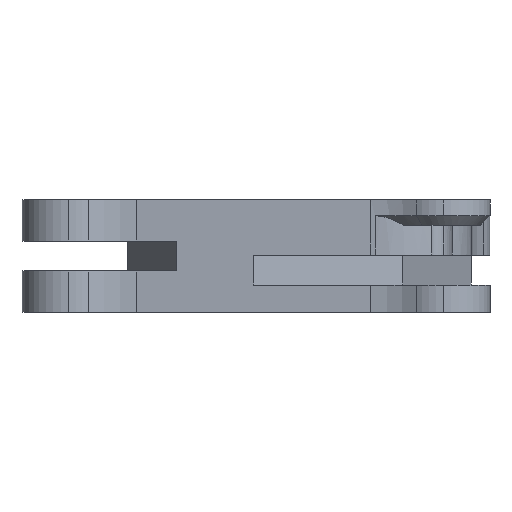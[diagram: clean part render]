
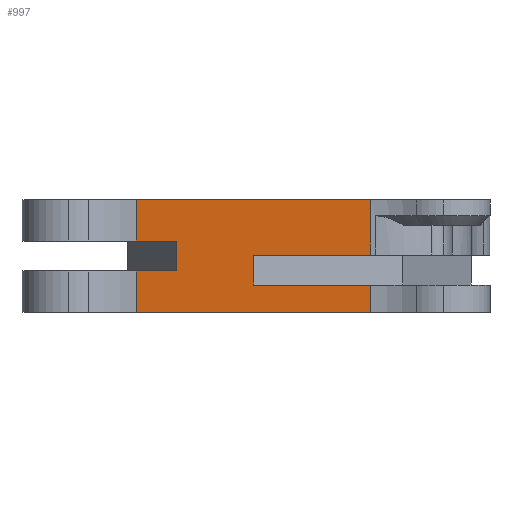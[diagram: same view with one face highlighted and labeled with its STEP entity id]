
A CAD part, left-side view. The second image highlights one B-rep face of the part: STEP entity #997.
In plain terms, the highlighted planar face has unit normal (-0.996, 0.088, 0).
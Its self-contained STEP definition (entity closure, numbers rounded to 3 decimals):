
#47 = CARTESIAN_POINT ( 'NONE',  ( -43.724, 20.232, 2.9 ) ) ;
#71 = LINE ( 'NONE', #522, #1834 ) ;
#75 = EDGE_CURVE ( 'NONE', #1943, #1281, #801, .T. ) ;
#81 = CARTESIAN_POINT ( 'NONE',  ( -43.724, 20.232, 6.1 ) ) ;
#89 = EDGE_CURVE ( 'NONE', #1194, #971, #71, .T. ) ;
#115 = ORIENTED_EDGE ( 'NONE', *, *, #1286, .T. ) ;
#136 = AXIS2_PLACEMENT_3D ( 'NONE', #1558, #494, #1124 ) ;
#190 = VECTOR ( 'NONE', #496, 1000. ) ;
#191 = DIRECTION ( 'NONE',  ( 0., 0., 1. ) ) ;
#200 = CARTESIAN_POINT ( 'NONE',  ( -42.619, 32.745, 0. ) ) ;
#248 = DIRECTION ( 'NONE',  ( 0., 0., -1. ) ) ;
#349 = VERTEX_POINT ( 'NONE', #1983 ) ;
#400 = CARTESIAN_POINT ( 'NONE',  ( -42.619, 32.745, 7.6 ) ) ;
#434 = EDGE_CURVE ( 'NONE', #1428, #1346, #1420, .T. ) ;
#439 = EDGE_LOOP ( 'NONE', ( #1755, #1874, #1610, #1372, #468, #1322, #1031, #1808, #842, #115, #513, #1045 ) ) ;
#468 = ORIENTED_EDGE ( 'NONE', *, *, #542, .F. ) ;
#473 = CARTESIAN_POINT ( 'NONE',  ( -44.83, 7.718, 12. ) ) ;
#494 = DIRECTION ( 'NONE',  ( 0.996, -0.088, 0. ) ) ;
#496 = DIRECTION ( 'NONE',  ( 0., 0., 1. ) ) ;
#513 = ORIENTED_EDGE ( 'NONE', *, *, #1220, .F. ) ;
#522 = CARTESIAN_POINT ( 'NONE',  ( -45.159, 3.99, 4.4 ) ) ;
#542 = EDGE_CURVE ( 'NONE', #1733, #349, #1919, .T. ) ;
#546 = EDGE_CURVE ( 'NONE', #1787, #868, #1152, .T. ) ;
#564 = DIRECTION ( 'NONE',  ( 0.088, 0.996, 0. ) ) ;
#565 = EDGE_CURVE ( 'NONE', #971, #1787, #1774, .T. ) ;
#579 = DIRECTION ( 'NONE',  ( 0., 0., 1. ) ) ;
#602 = DIRECTION ( 'NONE',  ( -0.088, -0.996, 0. ) ) ;
#624 = EDGE_CURVE ( 'NONE', #1943, #349, #1156, .T. ) ;
#625 = VECTOR ( 'NONE', #890, 1000. ) ;
#641 = EDGE_CURVE ( 'NONE', #1751, #1281, #1490, .T. ) ;
#686 = FACE_OUTER_BOUND ( 'NONE', #439, .T. ) ;
#690 = VERTEX_POINT ( 'NONE', #1628 ) ;
#697 = CARTESIAN_POINT ( 'NONE',  ( -42.619, 32.745, 12. ) ) ;
#708 = CARTESIAN_POINT ( 'NONE',  ( -45.159, 3.99, 7.6 ) ) ;
#739 = VECTOR ( 'NONE', #1880, 1000. ) ;
#743 = CARTESIAN_POINT ( 'NONE',  ( -42.996, 28.471, 4.4 ) ) ;
#801 = LINE ( 'NONE', #1123, #1666 ) ;
#842 = ORIENTED_EDGE ( 'NONE', *, *, #546, .T. ) ;
#861 = VECTOR ( 'NONE', #248, 1000. ) ;
#868 = VERTEX_POINT ( 'NONE', #1213 ) ;
#890 = DIRECTION ( 'NONE',  ( 0., 0., -1. ) ) ;
#892 = VECTOR ( 'NONE', #579, 1000. ) ;
#906 = CARTESIAN_POINT ( 'NONE',  ( -43.724, 20.232, 2.9 ) ) ;
#949 = CARTESIAN_POINT ( 'NONE',  ( -42.619, 32.745, 4.4 ) ) ;
#955 = LINE ( 'NONE', #906, #739 ) ;
#971 = VERTEX_POINT ( 'NONE', #949 ) ;
#991 = DIRECTION ( 'NONE',  ( -0.088, -0.996, 0. ) ) ;
#997 = ADVANCED_FACE ( 'NONE', ( #686 ), #1883, .F. ) ;
#1031 = ORIENTED_EDGE ( 'NONE', *, *, #89, .T. ) ;
#1045 = ORIENTED_EDGE ( 'NONE', *, *, #434, .T. ) ;
#1123 = CARTESIAN_POINT ( 'NONE',  ( -45.159, 3.99, 12. ) ) ;
#1124 = DIRECTION ( 'NONE',  ( 0.088, 0.996, 0. ) ) ;
#1139 = DIRECTION ( 'NONE',  ( -0.088, -0.996, 0. ) ) ;
#1152 = LINE ( 'NONE', #1485, #1890 ) ;
#1156 = LINE ( 'NONE', #400, #625 ) ;
#1194 = VERTEX_POINT ( 'NONE', #743 ) ;
#1213 = CARTESIAN_POINT ( 'NONE',  ( -44.83, 7.718, 0. ) ) ;
#1220 = EDGE_CURVE ( 'NONE', #1428, #690, #955, .T. ) ;
#1246 = CARTESIAN_POINT ( 'NONE',  ( -44.83, 7.718, 6.1 ) ) ;
#1281 = VERTEX_POINT ( 'NONE', #473 ) ;
#1286 = EDGE_CURVE ( 'NONE', #868, #690, #1553, .T. ) ;
#1322 = ORIENTED_EDGE ( 'NONE', *, *, #1788, .T. ) ;
#1346 = VERTEX_POINT ( 'NONE', #81 ) ;
#1372 = ORIENTED_EDGE ( 'NONE', *, *, #624, .T. ) ;
#1404 = CARTESIAN_POINT ( 'NONE',  ( -43.724, 20.232, 6.1 ) ) ;
#1411 = CARTESIAN_POINT ( 'NONE',  ( -44.83, 7.718, 2.9 ) ) ;
#1420 = LINE ( 'NONE', #47, #190 ) ;
#1428 = VERTEX_POINT ( 'NONE', #1909 ) ;
#1432 = VECTOR ( 'NONE', #602, 1000. ) ;
#1472 = VECTOR ( 'NONE', #191, 1000. ) ;
#1485 = CARTESIAN_POINT ( 'NONE',  ( -45.159, 3.99, 0. ) ) ;
#1490 = LINE ( 'NONE', #1970, #892 ) ;
#1521 = LINE ( 'NONE', #1404, #1432 ) ;
#1550 = LINE ( 'NONE', #1829, #1802 ) ;
#1553 = LINE ( 'NONE', #1411, #1472 ) ;
#1558 = CARTESIAN_POINT ( 'NONE',  ( -45.159, 3.99, 12. ) ) ;
#1610 = ORIENTED_EDGE ( 'NONE', *, *, #75, .F. ) ;
#1628 = CARTESIAN_POINT ( 'NONE',  ( -44.83, 7.718, 2.9 ) ) ;
#1666 = VECTOR ( 'NONE', #991, 1000. ) ;
#1715 = DIRECTION ( 'NONE',  ( 0., 0., -1. ) ) ;
#1725 = CARTESIAN_POINT ( 'NONE',  ( -42.996, 28.471, 7.6 ) ) ;
#1733 = VERTEX_POINT ( 'NONE', #1725 ) ;
#1751 = VERTEX_POINT ( 'NONE', #1246 ) ;
#1755 = ORIENTED_EDGE ( 'NONE', *, *, #1850, .T. ) ;
#1774 = LINE ( 'NONE', #1951, #861 ) ;
#1787 = VERTEX_POINT ( 'NONE', #200 ) ;
#1788 = EDGE_CURVE ( 'NONE', #1733, #1194, #1550, .T. ) ;
#1802 = VECTOR ( 'NONE', #1715, 1000. ) ;
#1808 = ORIENTED_EDGE ( 'NONE', *, *, #565, .T. ) ;
#1829 = CARTESIAN_POINT ( 'NONE',  ( -42.996, 28.471, 7.6 ) ) ;
#1831 = VECTOR ( 'NONE', #564, 1000. ) ;
#1834 = VECTOR ( 'NONE', #1892, 1000. ) ;
#1850 = EDGE_CURVE ( 'NONE', #1346, #1751, #1521, .T. ) ;
#1874 = ORIENTED_EDGE ( 'NONE', *, *, #641, .T. ) ;
#1880 = DIRECTION ( 'NONE',  ( -0.088, -0.996, 0. ) ) ;
#1883 = PLANE ( 'NONE',  #136 ) ;
#1890 = VECTOR ( 'NONE', #1139, 1000. ) ;
#1892 = DIRECTION ( 'NONE',  ( 0.088, 0.996, 0. ) ) ;
#1909 = CARTESIAN_POINT ( 'NONE',  ( -43.724, 20.232, 2.9 ) ) ;
#1919 = LINE ( 'NONE', #708, #1831 ) ;
#1943 = VERTEX_POINT ( 'NONE', #697 ) ;
#1951 = CARTESIAN_POINT ( 'NONE',  ( -42.619, 32.745, 0. ) ) ;
#1970 = CARTESIAN_POINT ( 'NONE',  ( -44.83, 7.718, 12. ) ) ;
#1983 = CARTESIAN_POINT ( 'NONE',  ( -42.619, 32.745, 7.6 ) ) ;
